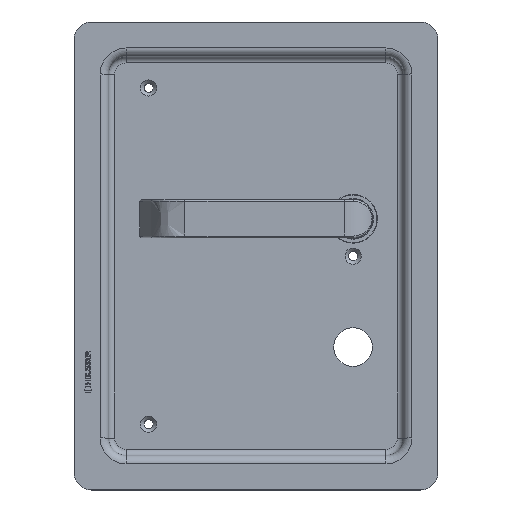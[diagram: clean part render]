
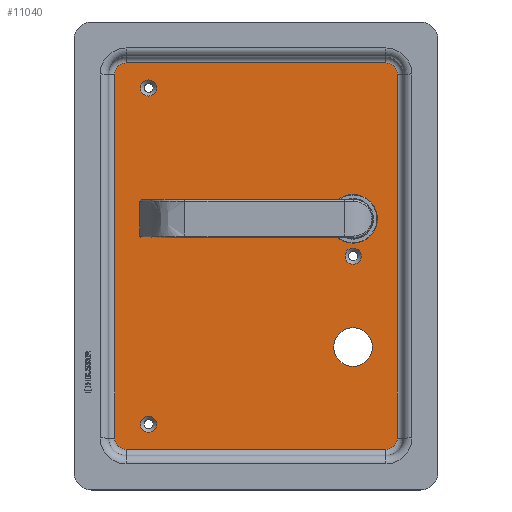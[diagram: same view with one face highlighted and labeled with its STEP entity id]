
A CAD part, top view. The second image highlights one B-rep face of the part: STEP entity #11040.
In plain terms, the highlighted planar face has unit normal (0, 0, 1).
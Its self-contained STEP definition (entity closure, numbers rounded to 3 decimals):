
#700=LINE('',#14672,#1653);
#701=LINE('',#14680,#1654);
#702=LINE('',#14690,#1655);
#705=LINE('',#14702,#1658);
#1653=VECTOR('',#12380,10.);
#1654=VECTOR('',#12391,10.);
#1655=VECTOR('',#12404,10.);
#1658=VECTOR('',#12419,10.);
#2668=FACE_BOUND('',#3588,.T.);
#2669=FACE_BOUND('',#3589,.T.);
#2670=FACE_BOUND('',#3590,.T.);
#2671=FACE_BOUND('',#3591,.T.);
#2672=FACE_BOUND('',#3592,.T.);
#2951=FACE_OUTER_BOUND('',#3587,.T.);
#3587=EDGE_LOOP('',(#7906,#7907,#7908,#7909,#7910,#7911,#7912,#7913));
#3588=EDGE_LOOP('',(#7914));
#3589=EDGE_LOOP('',(#7915));
#3590=EDGE_LOOP('',(#7916));
#3591=EDGE_LOOP('',(#7917));
#3592=EDGE_LOOP('',(#7918));
#4107=CIRCLE('',#11543,6.5);
#4110=CIRCLE('',#11548,6.5);
#4113=CIRCLE('',#11553,6.5);
#4117=CIRCLE('',#11559,6.5);
#4140=CIRCLE('',#11709,4.65);
#4141=CIRCLE('',#11711,4.65);
#4142=CIRCLE('',#11713,14.);
#4143=CIRCLE('',#11714,11.15);
#4144=CIRCLE('',#11715,4.65);
#4317=VERTEX_POINT('',#14665);
#4318=VERTEX_POINT('',#14667);
#4319=VERTEX_POINT('',#14671);
#4320=VERTEX_POINT('',#14675);
#4321=VERTEX_POINT('',#14679);
#4322=VERTEX_POINT('',#14683);
#4324=VERTEX_POINT('',#14689);
#4326=VERTEX_POINT('',#14695);
#4604=VERTEX_POINT('',#16251);
#4605=VERTEX_POINT('',#16254);
#4606=VERTEX_POINT('',#16257);
#4607=VERTEX_POINT('',#16259);
#4608=VERTEX_POINT('',#16261);
#5379=EDGE_CURVE('',#4318,#4317,#4107,.T.);
#5381=EDGE_CURVE('',#4319,#4318,#700,.T.);
#5383=EDGE_CURVE('',#4320,#4319,#4110,.T.);
#5385=EDGE_CURVE('',#4321,#4320,#701,.T.);
#5387=EDGE_CURVE('',#4322,#4321,#4113,.T.);
#5390=EDGE_CURVE('',#4324,#4322,#702,.T.);
#5393=EDGE_CURVE('',#4326,#4324,#4117,.T.);
#5397=EDGE_CURVE('',#4317,#4326,#705,.T.);
#5818=EDGE_CURVE('',#4604,#4604,#4140,.T.);
#5819=EDGE_CURVE('',#4605,#4605,#4141,.T.);
#5820=EDGE_CURVE('',#4606,#4606,#4142,.T.);
#5821=EDGE_CURVE('',#4607,#4607,#4143,.T.);
#5822=EDGE_CURVE('',#4608,#4608,#4144,.T.);
#7906=ORIENTED_EDGE('',*,*,#5397,.T.);
#7907=ORIENTED_EDGE('',*,*,#5393,.T.);
#7908=ORIENTED_EDGE('',*,*,#5390,.T.);
#7909=ORIENTED_EDGE('',*,*,#5387,.T.);
#7910=ORIENTED_EDGE('',*,*,#5385,.T.);
#7911=ORIENTED_EDGE('',*,*,#5383,.T.);
#7912=ORIENTED_EDGE('',*,*,#5381,.T.);
#7913=ORIENTED_EDGE('',*,*,#5379,.T.);
#7914=ORIENTED_EDGE('',*,*,#5820,.T.);
#7915=ORIENTED_EDGE('',*,*,#5821,.T.);
#7916=ORIENTED_EDGE('',*,*,#5819,.F.);
#7917=ORIENTED_EDGE('',*,*,#5818,.F.);
#7918=ORIENTED_EDGE('',*,*,#5822,.F.);
#10024=PLANE('',#11712);
#11040=ADVANCED_FACE('',(#2951,#2668,#2669,#2670,#2671,#2672),#10024,.F.);
#11543=AXIS2_PLACEMENT_3D('',#14668,#12374,#12375);
#11548=AXIS2_PLACEMENT_3D('',#14676,#12385,#12386);
#11553=AXIS2_PLACEMENT_3D('',#14684,#12396,#12397);
#11559=AXIS2_PLACEMENT_3D('',#14696,#12410,#12411);
#11709=AXIS2_PLACEMENT_3D('',#16252,#12990,#12991);
#11711=AXIS2_PLACEMENT_3D('',#16255,#12994,#12995);
#11712=AXIS2_PLACEMENT_3D('',#16256,#12996,#12997);
#11713=AXIS2_PLACEMENT_3D('',#16258,#12998,#12999);
#11714=AXIS2_PLACEMENT_3D('',#16260,#13000,#13001);
#11715=AXIS2_PLACEMENT_3D('',#16262,#13002,#13003);
#12374=DIRECTION('center_axis',(0.,0.,
1.));
#12375=DIRECTION('ref_axis',(0.707,0.707,0.));
#12380=DIRECTION('',(0.,1.,0.));
#12385=DIRECTION('center_axis',(0.,0.,
1.));
#12386=DIRECTION('ref_axis',(0.707,-0.707,0.));
#12391=DIRECTION('',(1.,0.,0.));
#12396=DIRECTION('center_axis',(0.,0.,
1.));
#12397=DIRECTION('ref_axis',(-0.707,-0.707,0.));
#12404=DIRECTION('',(0.,-1.,0.));
#12410=DIRECTION('center_axis',(0.,0.,
1.));
#12411=DIRECTION('ref_axis',(-0.707,0.707,0.));
#12419=DIRECTION('',(-1.,0.,0.));
#12990=DIRECTION('center_axis',(0.,0.,
1.));
#12991=DIRECTION('ref_axis',(1.,0.,0.));
#12994=DIRECTION('center_axis',(0.,0.,
1.));
#12995=DIRECTION('ref_axis',(1.,0.,0.));
#12996=DIRECTION('center_axis',(0.,0.,
-1.));
#12997=DIRECTION('ref_axis',(1.,0.,0.));
#12998=DIRECTION('center_axis',(0.,0.,
-1.));
#12999=DIRECTION('ref_axis',(0.,-1.,0.));
#13000=DIRECTION('center_axis',(0.,0.,
-1.));
#13001=DIRECTION('ref_axis',(1.,0.,0.));
#13002=DIRECTION('center_axis',(0.,0.,
1.));
#13003=DIRECTION('ref_axis',(1.,0.,0.));
#14665=CARTESIAN_POINT('',(71.893,122.762,-20.));
#14667=CARTESIAN_POINT('',(78.393,116.262,-20.));
#14668=CARTESIAN_POINT('Origin',(71.893,116.262,-20.));
#14671=CARTESIAN_POINT('',(78.393,-93.738,-20.));
#14672=CARTESIAN_POINT('',(78.393,-41.238,-20.));
#14675=CARTESIAN_POINT('',(71.893,-100.238,-20.));
#14676=CARTESIAN_POINT('Origin',(71.893,-93.738,-20.));
#14679=CARTESIAN_POINT('',(-78.107,-100.238,-20.));
#14680=CARTESIAN_POINT('',(-40.607,-100.238,-20.));
#14683=CARTESIAN_POINT('',(-84.607,-93.738,-20.));
#14684=CARTESIAN_POINT('Origin',(-78.107,-93.738,-20.));
#14689=CARTESIAN_POINT('',(-84.607,116.262,-20.));
#14690=CARTESIAN_POINT('',(-84.607,63.762,-20.));
#14695=CARTESIAN_POINT('',(-78.107,122.762,-20.));
#14696=CARTESIAN_POINT('Origin',(-78.107,116.262,-20.));
#14702=CARTESIAN_POINT('',(34.393,122.762,-20.));
#16251=CARTESIAN_POINT('',(48.243,11.262,-20.));
#16252=CARTESIAN_POINT('Origin',(52.893,11.262,-20.));
#16254=CARTESIAN_POINT('',(-69.757,108.262,-20.));
#16255=CARTESIAN_POINT('Origin',(-65.107,108.262,-20.));
#16256=CARTESIAN_POINT('Origin',(-3.107,11.262,-20.));
#16257=CARTESIAN_POINT('',(52.893,46.762,-20.));
#16258=CARTESIAN_POINT('Origin',(52.893,32.762,-20.));
#16259=CARTESIAN_POINT('',(41.743,-41.238,-20.));
#16260=CARTESIAN_POINT('Origin',(52.893,-41.238,-20.));
#16261=CARTESIAN_POINT('',(-69.757,-85.738,-20.));
#16262=CARTESIAN_POINT('Origin',(-65.107,-85.738,-20.));
